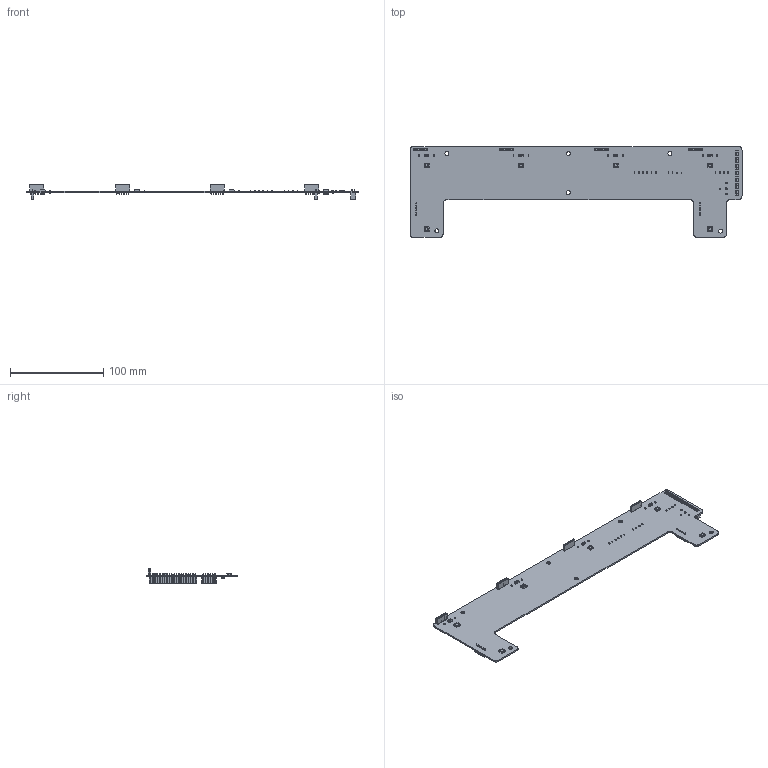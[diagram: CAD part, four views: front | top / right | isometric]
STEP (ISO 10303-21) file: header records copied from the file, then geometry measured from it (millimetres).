
FILE_DESCRIPTION(('KiCad electronic assembly'),'2;1');
FILE_NAME('ContactlessPiPoweredDrumkit.step','2024-02-05T10:53:11',( 'Pcbnew'),('Kicad'),'Open CASCADE STEP processor 7.7', 'KiCad to STEP converter','Unknown');
FILE_SCHEMA(('AUTOMOTIVE_DESIGN { 1 0 10303 214 1 1 1 1 }'));
Length unit declared in the file: millimetre
Products named in the file (16): ContactlessPiPoweredDrumkit 1; R_0603_1608Metric; C_0603_1608Metric; LED_Inolux_IN-PI554FCH_PLCC4_5.0x5.0mm_P3.2mm; LED_Inolux_IN_PI554FCH_PLCC4_50x50mm_P32mm; PinSocket_1x06_P2.54mm_Vertical; PinSocket_1x06_P254mm_Vertical; ST_VL53L1x; SOT-363_SC-70-6; SOT_363_SC_70_6; PinSocket_2x20_P2.54mm_Vertical; PinSocket_2x20_P254mm_Vertical; _autosave-ContactlessPiPoweredDrumkit PCB
Assembly tree (57 placements, depth 3):
  ContactlessPiPoweredDrumkit 1
    R_0603_1608Metric  x17
      R_0603_1608Metric
    C_0603_1608Metric  x12
      C_0603_1608Metric
    LED_Inolux_IN-PI554FCH_PLCC4_5.0x5.0mm_P3.2mm  x6
      LED_Inolux_IN_PI554FCH_PLCC4_50x50mm_P32mm
    PinSocket_1x06_P2.54mm_Vertical  x6
      PinSocket_1x06_P254mm_Vertical
    ST_VL53L1x  x6
      ST_VL53L1x
    SOT-363_SC-70-6
      SOT_363_SC_70_6
    PinSocket_2x20_P2.54mm_Vertical
      PinSocket_2x20_P254mm_Vertical
    _autosave-ContactlessPiPoweredDrumkit PCB
Bounding box: 356.87 x 97.79 x 15.7 mm (x, y, z)
Volume: 40586.1 mm3; surface area: 54210.7 mm2
Topology: 50 solids, 50 shells, 4340 faces, 11394 edges, 7436 vertices
Faces by surface type: plane 3726, cylinder 578, bspline 30, cone 6
Full cylindrical faces by diameter (mm): 0.5 x12, 0.7 x6, 0.85 x6, 1 x76, 3.333 x6, 4.3 x6
Entity records: 143196 total; most frequent: CARTESIAN_POINT 23205, DIRECTION 19878, LINE 15113, VECTOR 15113, ORIENTED_EDGE 10558, PCURVE 10558, DEFINITIONAL_REPRESENTATION 10558, EDGE_CURVE 5279
